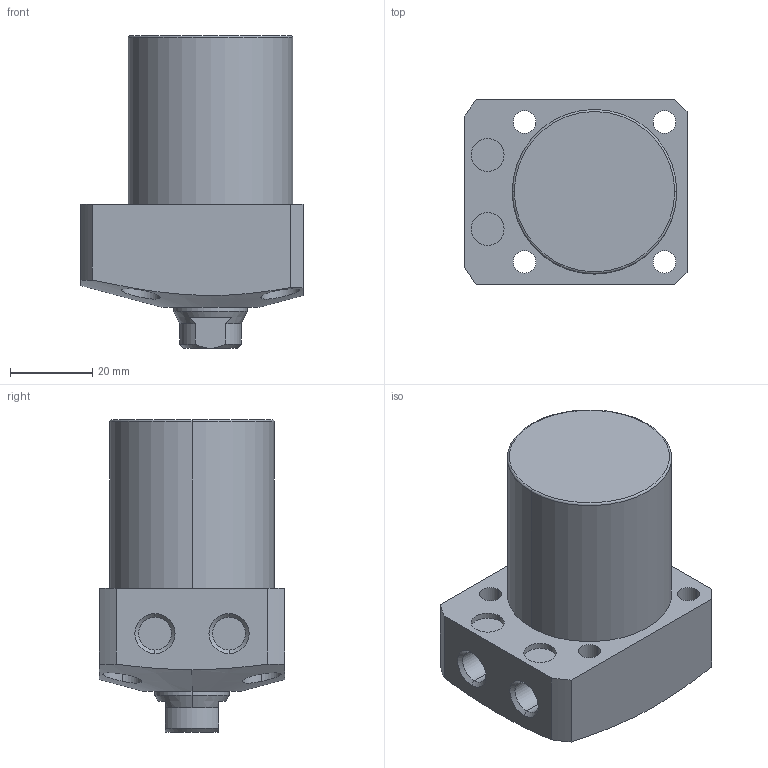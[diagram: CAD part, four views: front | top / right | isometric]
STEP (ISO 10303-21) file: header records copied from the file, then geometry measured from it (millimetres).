
FILE_DESCRIPTION (( 'STEP AP203' ), '1' );
FILE_NAME ('CLL-0400-CA-30.STEP', '2017-05-09T05:31:02', ( '' ), ( '' ), 'SwSTEP 2.0', 'SolidWorks 2015', '' );
FILE_SCHEMA (( 'CONFIG_CONTROL_DESIGN' ));
Length unit declared in the file: millimetre
Products named in the file (1): CLL-0400-CA-30
Bounding box: 54 x 45 x 76 mm (x, y, z)
Volume: 102968.2 mm3; surface area: 17051.5 mm2
Topology: 1 solids, 1 shells, 74 faces, 170 edges, 107 vertices
Faces by surface type: cylinder 35, plane 22, cone 15, torus 2
Entity records: 2512 total; most frequent: CARTESIAN_POINT 725, DIRECTION 374, ORIENTED_EDGE 336, EDGE_CURVE 168, AXIS2_PLACEMENT_3D 155, VERTEX_POINT 107, EDGE_LOOP 93, CIRCLE 80
